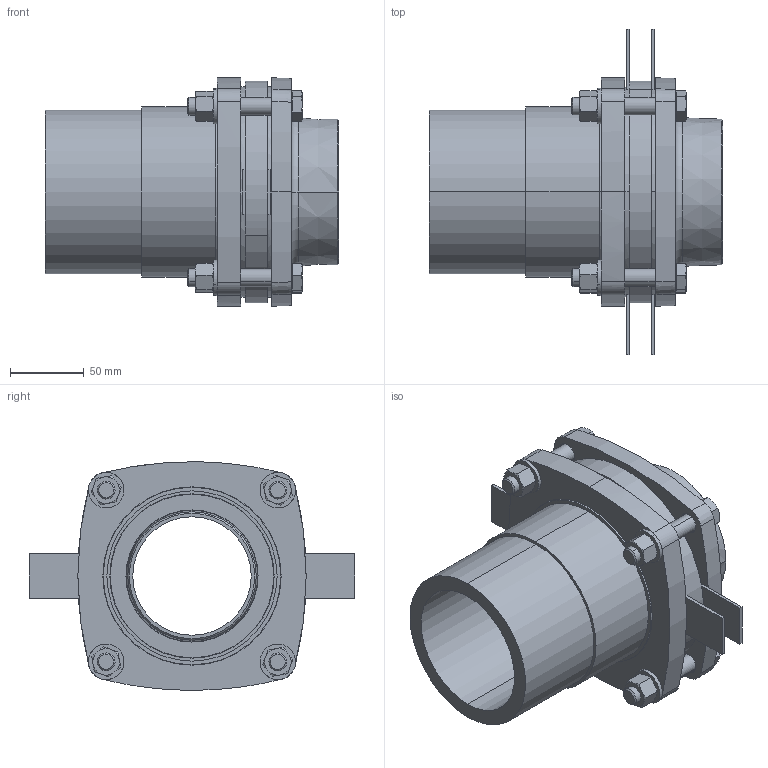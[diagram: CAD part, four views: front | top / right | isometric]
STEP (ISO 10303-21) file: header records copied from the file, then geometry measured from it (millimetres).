
FILE_DESCRIPTION (( 'STEP AP203' ), '1' );
FILE_NAME ('KP_C16-110-90F.step', '2011-08-08T11:59:49', ( '' ), ( '' ), 'SwSTEP 2.0', 'SolidWorks 2011', '' );
FILE_SCHEMA (( 'CONFIG_CONTROL_DESIGN' ));
Length unit declared in the file: millimetre
Products named in the file (1): KP_C16-110-90F
Bounding box: 198 x 220 x 154.31 mm (x, y, z)
Volume: 1286532.2 mm3; surface area: 282960.3 mm2
Topology: 1 solids, 1 shells, 406 faces, 899 edges, 534 vertices
Faces by surface type: plane 145, cone 138, cylinder 101, torus 22
Entity records: 11780 total; most frequent: CARTESIAN_POINT 2672, DIRECTION 2013, ORIENTED_EDGE 1798, EDGE_CURVE 899, AXIS2_PLACEMENT_3D 851, VERTEX_POINT 534, EDGE_LOOP 455, CIRCLE 444
